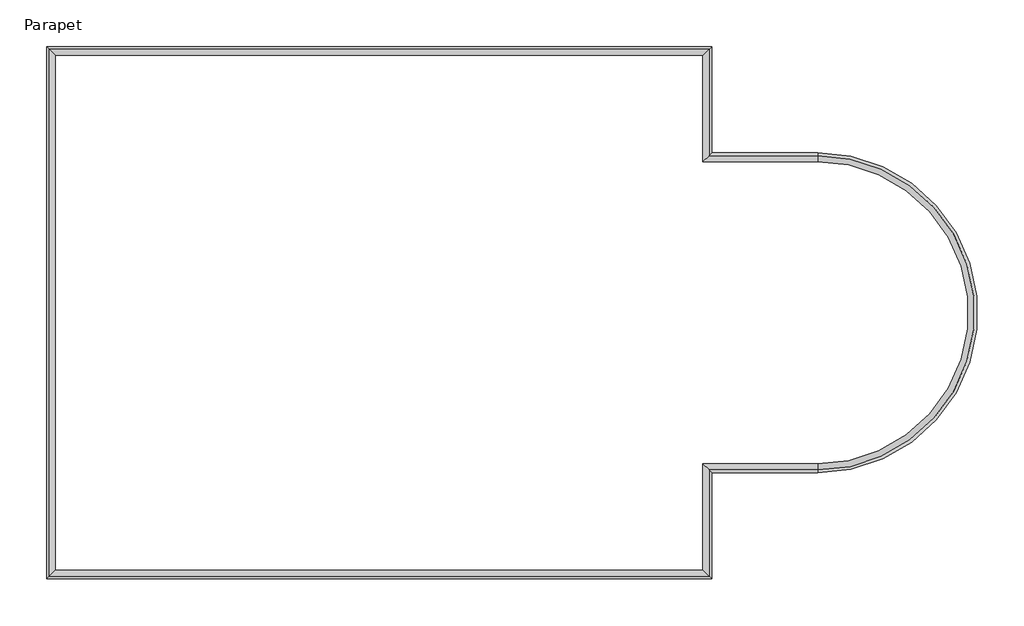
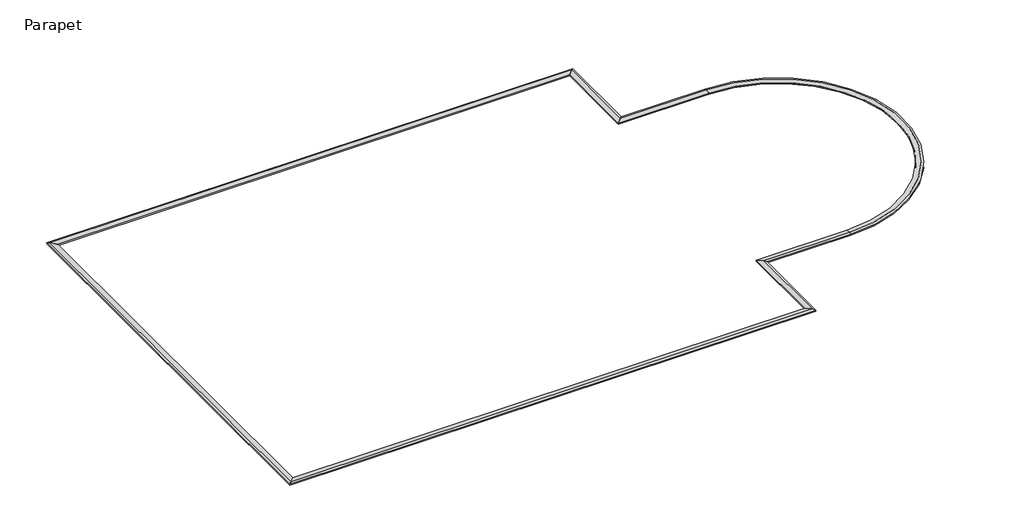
# One storey: 8 proxies.
"""IFC4 building model written with IfcOpenShell, lengths in millimetres."""

from ifc_helpers import new_model, si_unit, frame, origin, place, context, project, spatial, polyline, circle_curve, faceted_brep, element, save
from ifc_brep_helpers import plane_surface, cylinder_surface, revolved_surface, advanced_brep

model = new_model("IFC4")

# Units and contexts
model_context = context("Model", 3, world=origin())
ifc_project = project(units=[si_unit("LENGTHUNIT", "METRE", prefix="MILLI")], contexts=[model_context])

# Site, building, storey
site = spatial("IfcSite", under=ifc_project)
building = spatial("IfcBuilding", under=site)
storey = spatial("IfcBuildingStorey", under=building, Name="Parapet", Elevation=23164.8)

# Proxies
placement = place(None, origin())
element("IfcBuildingElementProxy", 1, Name="Wall Sweeps", at=placement, inside=storey, context=model_context, shape_type="Brep", body=[
    faceted_brep([(9841.462245, -6381.9012891, 23228.3), (10120.862245, -6661.3012891, 23266.4), (10247.862245, -6788.3012891, 23228.3), (10247.862245, -6788.3012891, 23164.8), (9841.462245, -6381.9012891, 23164.8), (-19876.537755, -6381.9012891, 23228.3), (-19876.537755, -6381.9012891, 23164.8), (-20282.937755, -6788.3012891, 23164.8), (-20282.937755, -6788.3012891, 23228.3), (-20155.937755, -6661.3012891, 23266.4)], [[[0, 1, 2, 3, 4]], [[5, 6, 7, 8, 9]], [[1, 0, 5, 9]], [[2, 1, 9, 8]], [[3, 2, 8, 7]], [[4, 3, 7, 6]], [[0, 4, 6, 5]]]),
])
element("IfcBuildingElementProxy", 2, Name="Wall Sweeps", at=placement, inside=storey, context=model_context, shape_type="Brep", body=[
    faceted_brep([(-19876.537755, -6381.9012891, 23228.3), (-20155.937755, -6661.3012891, 23266.4), (-20282.937755, -6788.3012891, 23228.3), (-20282.937755, -6788.3012891, 23164.8), (-19876.537755, -6381.9012891, 23164.8), (-19876.537755, 17240.0987109, 23228.3), (-19876.537755, 17240.0987109, 23164.8), (-20282.937755, 17646.4987109, 23164.8), (-20282.937755, 17646.4987109, 23228.3), (-20155.937755, 17519.4987109, 23266.4)], [[[0, 1, 2, 3, 4]], [[5, 6, 7, 8, 9]], [[1, 0, 5, 9]], [[2, 1, 9, 8]], [[3, 2, 8, 7]], [[4, 3, 7, 6]], [[0, 4, 6, 5]]]),
])
element("IfcBuildingElementProxy", 3, Name="Wall Sweeps", at=placement, inside=storey, context=model_context, shape_type="Brep", body=[
    faceted_brep([(-19876.537755, 17240.0987109, 23228.3), (-20155.937755, 17519.4987109, 23266.4), (-20282.937755, 17646.4987109, 23228.3), (-20282.937755, 17646.4987109, 23164.8), (-19876.537755, 17240.0987109, 23164.8), (9841.462245, 17240.0987109, 23228.3), (9841.462245, 17240.0987109, 23164.8), (10247.862245, 17646.4987109, 23164.8), (10247.862245, 17646.4987109, 23228.3), (10120.862245, 17519.4987109, 23266.4)], [[[0, 1, 2, 3, 4]], [[5, 6, 7, 8, 9]], [[1, 0, 5, 9]], [[2, 1, 9, 8]], [[3, 2, 8, 7]], [[4, 3, 7, 6]], [[0, 4, 6, 5]]]),
])
element("IfcBuildingElementProxy", 4, Name="Wall Sweeps", at=placement, inside=storey, context=model_context, shape_type="Brep", body=[
    faceted_brep([(9841.462245, 17240.0987109, 23228.3), (10120.862245, 17519.4987109, 23266.4), (10247.862245, 17646.4987109, 23228.3), (10247.862245, 17646.4987109, 23164.8), (9841.462245, 17240.0987109, 23164.8), (9841.462245, 12363.2987109, 23228.3), (9841.462245, 12363.2987109, 23164.8), (9870.037245, 12391.8737109, 23164.8), (10222.462245, 12744.2987109, 23164.8), (10247.862245, 12769.6987109, 23164.8), (10247.862245, 12769.6987109, 23228.3), (10120.862245, 12642.6987109, 23266.4)], [[[0, 1, 2, 3, 4]], [[5, 6, 7, 8, 9, 10, 11]], [[1, 0, 5, 11]], [[2, 1, 11, 10]], [[3, 2, 10, 9]], [[4, 3, 9, 8, 7, 6]], [[0, 4, 6, 5]]]),
])
element("IfcBuildingElementProxy", 5, Name="Wall Sweeps", at=placement, inside=storey, context=model_context, shape_type="Brep", body=[
    faceted_brep([(9841.462245, 12363.2987109, 23228.3), (10120.862245, 12642.6987109, 23266.4), (10247.862245, 12769.6987109, 23228.3), (10247.862245, 12769.6987109, 23164.8), (10222.462245, 12744.2987109, 23164.8), (9870.037245, 12391.8737109, 23164.8), (9841.462245, 12363.2987109, 23164.8), (15099.262245, 12363.2987109, 23228.3), (15099.262245, 12363.2987109, 23164.8), (15099.262245, 12391.8737109, 23164.8), (15099.262245, 12744.2987109, 23164.8), (15099.262245, 12769.6987109, 23164.8), (15099.262245, 12769.6987109, 23228.3), (15099.262245, 12642.6987109, 23266.4)], [[[0, 1, 2, 3, 4, 5, 6]], [[7, 8, 9, 10, 11, 12, 13]], [[1, 0, 7, 13]], [[2, 1, 13, 12]], [[3, 2, 12, 11]], [[6, 5, 4, 3, 11, 10, 9, 8]], [[0, 6, 8, 7]]]),
])
element("IfcBuildingElementProxy", 6, Name="Wall Sweeps", at=placement, inside=storey, context=model_context, shape_type="Brep", body=[
    faceted_brep([(9841.462245, -6381.9012891, 23228.3), (9841.462245, -6381.9012891, 23164.8), (10247.862245, -6788.3012891, 23164.8), (10247.862245, -6788.3012891, 23228.3), (10120.862245, -6661.3012891, 23266.4), (9841.462245, -1505.1012891, 23228.3), (10120.862245, -1784.5012891, 23266.4), (10247.862245, -1911.5012891, 23228.3), (10247.862245, -1911.5012891, 23164.8), (10222.462245, -1886.1012891, 23164.8), (9870.037245, -1533.6762891, 23164.8), (9841.462245, -1505.1012891, 23164.8)], [[[0, 1, 2, 3, 4]], [[5, 6, 7, 8, 9, 10, 11]], [[0, 4, 6, 5]], [[4, 3, 7, 6]], [[3, 2, 8, 7]], [[2, 1, 11, 10, 9, 8]], [[1, 0, 5, 11]]]),
])
element("IfcBuildingElementProxy", 7, Name="Wall Sweeps", at=placement, inside=storey, context=model_context, shape_type="Brep", body=[
    faceted_brep([(9841.462245, -1505.1012891, 23228.3), (9841.462245, -1505.1012891, 23164.8), (9870.037245, -1533.6762891, 23164.8), (10222.462245, -1886.1012891, 23164.8), (10247.862245, -1911.5012891, 23164.8), (10247.862245, -1911.5012891, 23228.3), (10120.862245, -1784.5012891, 23266.4), (15099.262245, -1505.1012891, 23228.3), (15099.262245, -1784.5012891, 23266.4), (15099.262245, -1911.5012891, 23228.3), (15099.262245, -1911.5012891, 23164.8), (15099.262245, -1886.1012891, 23164.8), (15099.262245, -1533.6762891, 23164.8), (15099.262245, -1505.1012891, 23164.8)], [[[0, 1, 2, 3, 4, 5, 6]], [[7, 8, 9, 10, 11, 12, 13]], [[0, 6, 8, 7]], [[6, 5, 9, 8]], [[5, 4, 10, 9]], [[4, 3, 2, 1, 13, 12, 11, 10]], [[1, 0, 7, 13]]]),
])
element("IfcBuildingElementProxy", 8, Name="Wall Sweeps", at=placement, inside=storey, context=model_context, shape_type="AdvancedBrep", body=[
    advanced_brep(
    [(15099.262245, -1784.5012891, 23266.4), (15099.262245, 12642.6987109, 23266.4), (15099.262245, 12363.2987109, 23228.3), (15099.262245, -1505.1012891, 23228.3), (15099.262245, -1911.5012891, 23228.3), (15099.262245, 12769.6987109, 23228.3), (15099.262245, -1911.5012891, 23164.8), (15099.262245, 12769.6987109, 23164.8), (15099.262245, -1505.1012891, 23164.8), (15099.262245, 12363.2987109, 23164.8), (15099.262245, 12391.8737109, 23164.8), (15099.262245, 12744.2987109, 23164.8), (15099.262245, -1886.1012891, 23164.8), (15099.262245, -1533.6762891, 23164.8)],
    [
        (0, 1, circle_curve(frame((15099.262245, 5429.0987109, 23266.4), z_axis=(0.0, 0.0, 1.0), x_axis=(0.0, 1.0, 0.0)), 7213.6)),
        (1, 2),
        (2, 3, circle_curve(frame((15099.262245, 5429.0987109, 23228.3), z_axis=(0.0, 0.0, -1.0), x_axis=(0.0, 1.0, 0.0)), 6934.2)),
        (3, 0),
        (4, 5, circle_curve(frame((15099.262245, 5429.0987109, 23228.3), z_axis=(0.0, 0.0, 1.0), x_axis=(0.0, 1.0, 0.0)), 7340.6)),
        (5, 1),
        (0, 4),
        (6, 7, circle_curve(frame((15099.262245, 5429.0987109, 23164.8), z_axis=(0.0, 0.0, 1.0), x_axis=(0.0, 1.0, 0.0)), 7340.6)),
        (7, 5),
        (4, 6),
        (8, 9, circle_curve(frame((15099.262245, 5429.0987109, 23164.8), z_axis=(0.0, 0.0, 1.0), x_axis=(0.0, 1.0, 0.0)), 6934.2)),
        (9, 10),
        (10, 11),
        (11, 7),
        (6, 12),
        (12, 13),
        (13, 8),
        (2, 9),
        (8, 3),
    ],
    [
        revolved_surface(polyline([(15099.262245, 12363.2987109, 23228.3), (15099.262245, 12642.6987109, 23266.4)]), (15099.262245, 5429.0987109, 23164.8), (0.0, 0.0, -1.0)),
        revolved_surface(polyline([(15099.262245, 12642.6987109, 23266.4), (15099.262245, 12769.6987109, 23228.3)]), (15099.262245, 5429.0987109, 23164.8), (0.0, 0.0, -1.0)),
        cylinder_surface(frame((15099.262245, 5429.0987109, 23164.8), z_axis=(0.0, 0.0, -1.0), x_axis=(0.0, 1.0, 0.0)), 7340.6),
        plane_surface(frame((15099.262245, 5429.0987109, 23164.8), z_axis=(0.0, 0.0, -1.0), x_axis=(0.0, 1.0, 0.0))),
        revolved_surface(polyline([(15099.262245, 12363.298710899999, 23164.8), (15099.262245, 12363.298710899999, 23228.3)]), (15099.262245, 5429.0987109, 23164.8), (0.0, 0.0, -1.0)),
        plane_surface(frame((15099.262245, 13049.0987109, 23164.8), z_axis=(-1.0, 0.0, 0.0), x_axis=(0.0, 0.0, 1.0))),
        plane_surface(frame((15099.262245, -2190.9012891, 23164.8), z_axis=(-1.0, 0.0, 0.0), x_axis=(0.0, 0.0, 1.0))),
    ],
    [
        (0, [[1, 2, 3, 4]]),
        (1, [[5, 6, -1, 7]]),
        (2, [[8, 9, -5, 10]]),
        (3, [[11, 12, 13, 14, -8, 15, 16, 17]]),
        (4, [[-3, 18, -11, 19]]),
        (5, [[-2, -6, -9, -14, -13, -12, -18]]),
        (6, [[-19, -17, -16, -15, -10, -7, -4]]),
    ],
),
])

save(model, "model.ifc")
